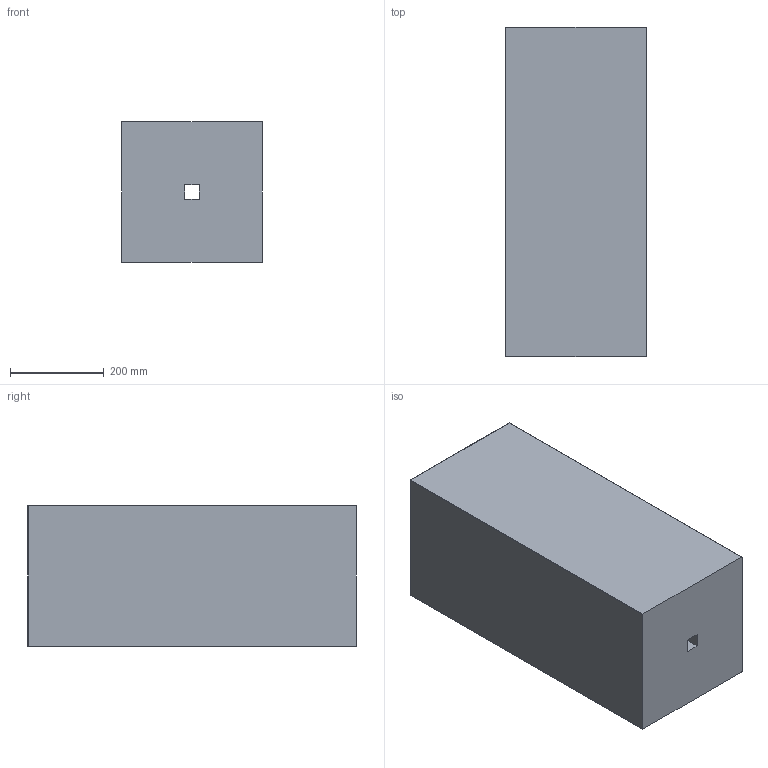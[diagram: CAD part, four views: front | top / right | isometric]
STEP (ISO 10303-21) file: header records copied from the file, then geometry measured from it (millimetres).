
FILE_DESCRIPTION(/* description */ (''),/* implementation_level */ '2;1');
FILE_NAME(/* name */ 'C:\Mac\Home\Desktop\btnv\inventor\alto303070\donica betonowa Cubo 30x30x70cm.stp',/* time_stamp */ '2025-11-10T20:50:03+01:00',/* author */ ('dwasik'),/* organization */ (''),/* preprocessor_version */ 'ST-DEVELOPER v15.6',/* originating_system */ 'Autodesk Inventor 2015',/* authorisation */ '');
FILE_SCHEMA (('AUTOMOTIVE_DESIGN { 1 0 10303 214 3 1 1 }'));
Length unit declared in the file: millimetre
Products named in the file (1): Part1
Bounding box: 300 x 700 x 300 mm (x, y, z)
Volume: 24380142.3 mm3; surface area: 1663281.8 mm2
Topology: 1 solids, 1 shells, 27 faces, 60 edges, 36 vertices
Faces by surface type: plane 15, cylinder 8, sphere 4
Entity records: 762 total; most frequent: DIRECTION 132, CARTESIAN_POINT 124, ORIENTED_EDGE 120, EDGE_CURVE 60, LINE 44, VECTOR 44, AXIS2_PLACEMENT_3D 44, VERTEX_POINT 36
